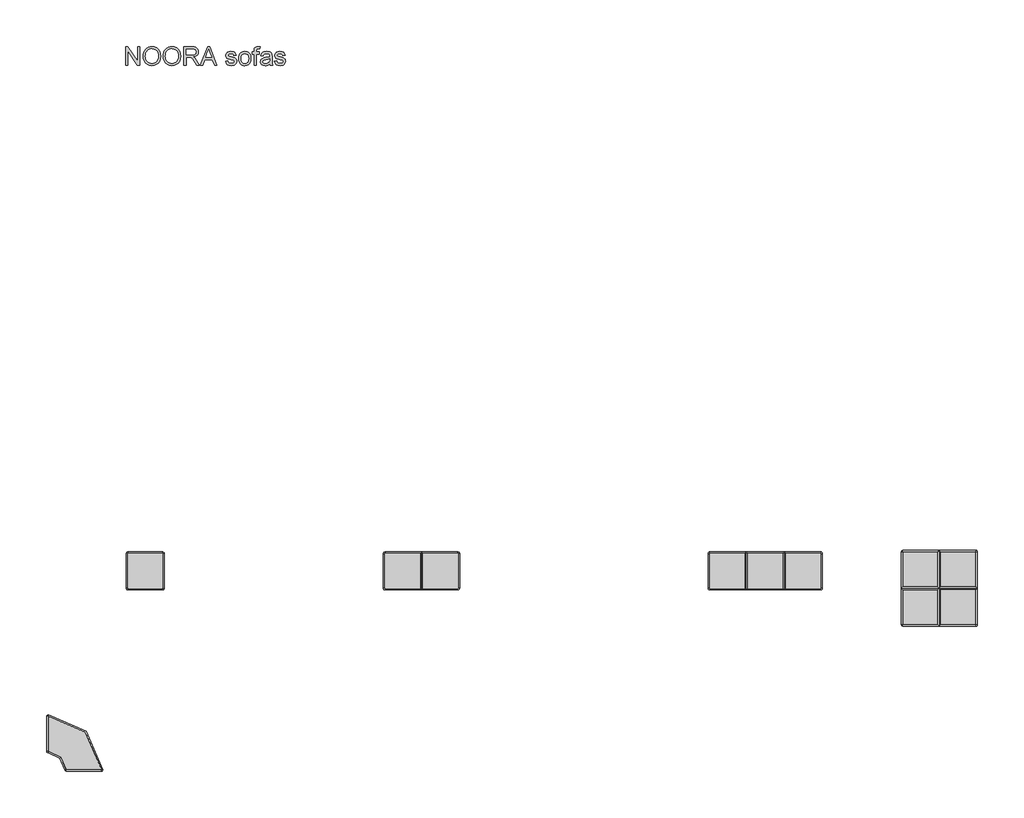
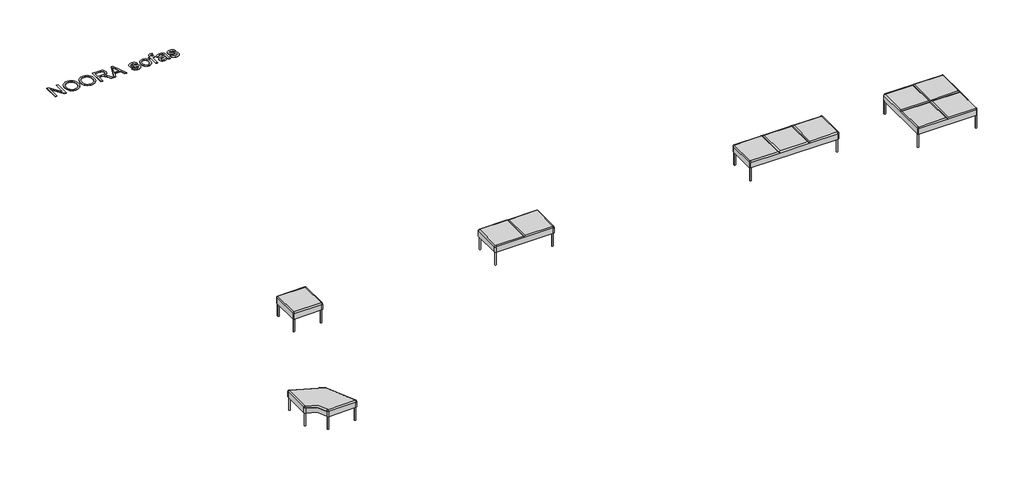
# One storey, incomplete: 5 furniture elements, 1 proxy.
"""IFC4 building model written with IfcOpenShell, lengths in millimetres."""

from ifc_helpers import new_model, si_unit, origin, origin_with_axes, place, context, project, spatial, polyline, outline, extrude, transform, mapped, element, save
from components import bench_bedf77db, bench_20c81473, bench_e48bfbdb, bench_625b1216, bench_5e1756b0

model = new_model("IFC4")

# Units and contexts
model_context = context("Model", 3, world=origin())
ifc_project = project(units=[si_unit("LENGTHUNIT", "METRE", prefix="MILLI")], contexts=[model_context])

# Site, building, storey
site = spatial("IfcSite", under=ifc_project)
building = spatial("IfcBuilding", under=site)
storey = spatial("IfcBuildingStorey", under=building, Name="Noora", Elevation=0.0)

# Proxy
placement = place(None, origin())
element("IfcBuildingElementProxy", 1, Name="600mm Arial", ObjectType="600mm Arial", at=placement, inside=storey, context=model_context, shape_type="SweptSolid", body=[
    extrude(outline(polyline([(-23332.8913106, 22931.5364008), (-23332.8913106, 23232.9053312), (-23292.5714439, 23232.9053312), (-23135.11795, 22994.1499163), (-23135.11795, 23232.9053312), (-23097.4468337, 23232.9053312), (-23097.4468337, 22931.5364008), (-23137.7667003, 22931.5364008), (-23295.2201943, 23170.365392), (-23295.2201943, 22931.5364008), (-23332.8913106, 22931.5364008)])), origin_with_axes(), (0.0, 0.0, 1.0), 5.0),
    extrude(outline(polyline([(-23045.6490487, 23078.2477404), (-23043.1382541, 23113.5966016), (-23035.6058703, 23144.8895639), (-23023.0518972, 23172.1266271), (-23005.4763349, 23195.3077913), (-22983.9322455, 23213.8168542), (-22959.4726914, 23227.0376134), (-22932.0976724, 23234.9700689), (-22901.8071886, 23237.6142207), (-22862.2782682, 23232.6478138), (-22826.832838, 23217.748593), (-22797.4022784, 23193.965022), (-22775.9179699, 23162.3455645), (-22762.7845826, 23124.4169308), (-22758.4067869, 23081.7058312), (-22763.0145089, 23038.4245145), (-22776.8376749, 22999.9624519), (-22799.1129297, 22968.2878121), (-22829.0769182, 22945.3687638), (-22864.2188458, 22931.4628244), (-22902.0279178, 22926.8275112), (-22942.1638435, 22931.950268), (-22977.8116088, 22947.3185383), (-23007.168592, 22971.5435677), (-23028.4321714, 23003.2366016), (-23041.3448294, 23039.7029044), (-23045.6490487, 23078.2477404)]), holes=[polyline([(-23007.9779324, 23077.8798584), (-23006.0948365, 23052.9052695), (-23000.4455486, 23030.7357808), (-22991.0300688, 23011.3713922), (-22977.848397, 22994.8121039), (-22961.8248369, 22981.549958), (-22943.8836918, 22972.0769966), (-22924.0249619, 22966.3932198), (-22902.248647, 22964.4986275), (-22880.0998516, 22966.4116139), (-22860.0065969, 22972.150573), (-22841.9688828, 22981.7155049), (-22825.9867094, 22995.1064095), (-22812.9016067, 23012.0151857), (-22803.5551048, 23032.1337323), (-22797.9472036, 23055.4620494), (-22796.0779032, 23082.0001368), (-22799.2784766, 23115.3486396), (-22808.8801966, 23144.172194), (-22824.6347431, 23167.7442328), (-22846.2937956, 23185.3381892), (-22872.4226143, 23196.2918756), (-22901.5864594, 23199.9431044), (-22922.6063169, 23198.1841686), (-22942.1086612, 23192.9073613), (-22960.0934922, 23184.1126823), (-22976.56081, 23171.8001318), (-22990.3058011, 23155.3765), (-23000.1236518, 23134.2485771), (-23006.0143623, 23108.4163633), (-23007.9779324, 23077.8798584)])]), origin_with_axes(), (0.0, 0.0, 1.0), 5.0),
    extrude(outline(polyline([(-22720.7356706, 23078.2477404), (-22718.224876, 23113.5966016), (-22710.6924921, 23144.8895639), (-22698.138519, 23172.1266271), (-22680.5629567, 23195.3077913), (-22659.0188674, 23213.8168542), (-22634.5593132, 23227.0376134), (-22607.1842943, 23234.9700689), (-22576.8938105, 23237.6142207), (-22537.3648901, 23232.6478138), (-22501.9194599, 23217.748593), (-22472.4889003, 23193.965022), (-22451.0045917, 23162.3455645), (-22437.8712045, 23124.4169308), (-22433.4934088, 23081.7058312), (-22438.1011308, 23038.4245145), (-22451.9242967, 22999.9624519), (-22474.1995515, 22968.2878121), (-22504.16354, 22945.3687638), (-22539.3054676, 22931.4628244), (-22577.1145397, 22926.8275112), (-22617.2504654, 22931.950268), (-22652.8982307, 22947.3185383), (-22682.2552139, 22971.5435677), (-22703.5187932, 23003.2366016), (-22716.4314513, 23039.7029044), (-22720.7356706, 23078.2477404)]), holes=[polyline([(-22683.0645543, 23077.8798584), (-22681.1814583, 23052.9052695), (-22675.5321704, 23030.7357808), (-22666.1166906, 23011.3713922), (-22652.9350189, 22994.8121039), (-22636.9114587, 22981.549958), (-22618.9703137, 22972.0769966), (-22599.1115837, 22966.3932198), (-22577.3352689, 22964.4986275), (-22555.1864735, 22966.4116139), (-22535.0932188, 22972.150573), (-22517.0555047, 22981.7155049), (-22501.0733313, 22995.1064095), (-22487.9882286, 23012.0151857), (-22478.6417266, 23032.1337323), (-22473.0338255, 23055.4620494), (-22471.1645251, 23082.0001368), (-22474.3650984, 23115.3486396), (-22483.9668185, 23144.172194), (-22499.7213649, 23167.7442328), (-22521.3804174, 23185.3381892), (-22547.5092361, 23196.2918756), (-22576.6730813, 23199.9431044), (-22597.6929388, 23198.1841686), (-22617.1952831, 23192.9073613), (-22635.1801141, 23184.1126823), (-22651.6474319, 23171.8001318), (-22665.392423, 23155.3765), (-22675.2102737, 23134.2485771), (-22681.1009841, 23108.4163633), (-22683.0645543, 23077.8798584)])]), origin_with_axes(), (0.0, 0.0, 1.0), 5.0),
    extrude(outline(polyline([(-22381.6956238, 22931.5364008), (-22381.6956238, 23232.9053312), (-22251.8332795, 23232.9053312), (-22216.9304753, 23230.8727832), (-22191.5374205, 23224.7751391), (-22172.9777739, 23213.5179501), (-22158.5751938, 23196.0067671), (-22149.3321586, 23174.2925323), (-22146.2511469, 23150.4261879), (-22151.3555096, 23120.7381109), (-22166.6685977, 23096.1268054), (-22178.2683768, 23086.0974225), (-22192.6502636, 23078.0821935), (-22229.7603598, 23068.0941974), (-22208.3496277, 23051.980966), (-22177.8154221, 23013.2062037), (-22127.5627416, 22931.5364008), (-22171.340699, 22931.5364008), (-22210.5569197, 22994.0027635), (-22238.8838333, 23035.3526998), (-22258.7862493, 23054.8872337), (-22276.7021024, 23062.0609326), (-22298.5542929, 23063.3853078), (-22344.0245075, 23063.3853078), (-22344.0245075, 22931.5364008), (-22381.6956238, 22931.5364008)]), holes=[polyline([(-22344.0245075, 23101.0564241), (-22259.7059542, 23101.0564241), (-22235.4901219, 23102.3899964), (-22216.700549, 23106.3907131), (-22202.5554863, 23113.3252887), (-22192.2731845, 23123.4604376), (-22186.0099936, 23135.7201051), (-22183.9222632, 23149.0282363), (-22187.9045858, 23167.403942), (-22199.8515536, 23182.2111923), (-22220.4069601, 23191.9784592), (-22250.2145988, 23195.2342149), (-22344.0245075, 23195.2342149), (-22344.0245075, 23101.0564241)])]), origin_with_axes(), (0.0, 0.0, 1.0), 5.0),
    extrude(outline(polyline([(-22115.4226357, 22931.5364008), (-21995.1252233, 23232.9053312), (-21963.0459133, 23232.9053312), (-21842.7485009, 22931.5364008), (-21882.5533328, 22931.5364008), (-21917.0606639, 23025.7141915), (-22041.1840491, 23025.7141915), (-22075.6178039, 22931.5364008), (-22115.4226357, 22931.5364008)]), holes=[polyline([(-22027.3516861, 23063.3853078), (-21930.8194506, 23063.3853078), (-21957.9691418, 23137.4767417), (-21979.0855683, 23195.2342149), (-21997.8475501, 23143.9514648), (-22027.3516861, 23063.3853078)])]), origin_with_axes(), (0.0, 0.0, 1.0), 5.0),
    extrude(outline(polyline([(-21703.6155303, 22997.4608543), (-21665.944414, 23002.1697438), (-21660.0031198, 22986.0565124), (-21648.5068075, 22974.2107122), (-21631.3819006, 22966.9266487), (-21608.5548228, 22964.4986275), (-21586.0036565, 22966.7243136), (-21570.1479425, 22973.4013718), (-21560.7669516, 22983.0766683), (-21557.6399546, 22994.2970691), (-21560.7853457, 23003.8987892), (-21570.2215189, 23011.2196409), (-21608.9962812, 23021.9617952), (-21665.7236848, 23040.3926831), (-21680.0802797, 23049.6541124), (-21690.4821431, 23061.9137798), (-21696.8005164, 23076.3899364), (-21698.9066408, 23092.3008326), (-21697.2143836, 23106.8965508), (-21692.1376121, 23120.3702289), (-21684.1361787, 23132.188438), (-21673.6699359, 23141.8177492), (-21649.720818, 23152.9645737), (-21617.3104143, 23157.5630986), (-21592.7910793, 23155.7144916), (-21571.4723177, 23150.1686705), (-21554.3290167, 23141.4682613), (-21542.3360636, 23130.1558899), (-21534.3898126, 23115.3946249), (-21529.3866174, 23096.3475346), (-21567.0577337, 23091.6386451), (-21571.8126085, 23103.4936423), (-21581.2211905, 23112.4239778), (-21595.3754503, 23118.0249812), (-21614.3673583, 23119.8919823), (-21635.9988196, 23118.1077546), (-21650.4197938, 23112.7550716), (-21658.5315918, 23105.0295497), (-21661.2355245, 23096.1268054), (-21656.7473641, 23085.1639219), (-21642.6942719, 23076.8497888), (-21610.24708, 23068.8299614), (-21554.9544161, 23051.0980492), (-21540.3495009, 23042.6183692), (-21529.2762528, 23031.0116922), (-21522.295692, 23016.2412301), (-21519.9688383, 22998.2701947), (-21522.7003622, 22979.6921539), (-21530.8949336, 22962.2177592), (-21544.239853, 22947.2173708), (-21562.4224206, 22936.0613493), (-21584.3849757, 22929.1359707), (-21609.0698576, 22926.8275112), (-21647.0536736, 22931.2788834), (-21674.7735819, 22944.6329998), (-21693.2780463, 22966.7427077), (-21703.6155303, 22997.4608543)])), origin_with_axes(), (0.0, 0.0, 1.0), 5.0),
    extrude(outline(polyline([(-21487.0066116, 23042.1953049), (-21484.969465, 23070.8579109), (-21478.8580254, 23095.5565883), (-21468.6722926, 23116.2913373), (-21454.4122668, 23133.0621577), (-21440.0556719, 23143.7813193), (-21424.209155, 23151.4378634), (-21406.872716, 23156.0317898), (-21388.0463549, 23157.5630986), (-21367.2633214, 23155.6983967), (-21348.4714492, 23150.1042911), (-21331.6707384, 23140.7807818), (-21316.8611888, 23127.7278688), (-21304.773966, 23111.3870104), (-21296.1402354, 23092.1996651), (-21290.9599971, 23070.1658328), (-21289.233251, 23045.2855137), (-21292.2866715, 23007.2281213), (-21301.4469332, 22978.2574141), (-21316.4473216, 22956.5615735), (-21337.0211221, 22940.3287804), (-21361.4576837, 22930.2028285), (-21388.0463549, 22926.8275112), (-21409.132891, 22928.6853153), (-21428.0995071, 22934.2587275), (-21444.9462032, 22943.5477479), (-21459.6729793, 22956.5523764), (-21471.6314434, 22973.0518839), (-21480.1732035, 22992.8255411), (-21485.2982596, 23015.8733481), (-21487.0066116, 23042.1953049)]), holes=[polyline([(-21449.3354953, 23042.2688813), (-21444.9760936, 23008.1754174), (-21431.8978887, 22983.8860087), (-21412.216202, 22969.3454728), (-21388.0463549, 22964.4986275), (-21363.9868724, 22969.373064), (-21344.3419738, 22983.9963733), (-21331.2637689, 23008.6076787), (-21326.9043673, 23043.4461037), (-21331.2913601, 23076.5462862), (-21344.4523384, 23100.5046011), (-21364.1248281, 23115.045137), (-21388.0463549, 23119.8919823), (-21412.216202, 23115.0635311), (-21431.8978887, 23100.5781775), (-21444.9760936, 23076.3439511), (-21449.3354953, 23042.2688813)])]), origin_with_axes(), (0.0, 0.0, 1.0), 5.0),
    extrude(outline(polyline([(-21237.435466, 22931.5364008), (-21237.435466, 23115.1830927), (-21270.3976928, 23115.1830927), (-21270.3976928, 23152.8542091), (-21237.435466, 23152.8542091), (-21237.435466, 23175.147858), (-21233.4623405, 23206.5649803), (-21225.8839714, 23219.0913623), (-21214.185324, 23229.0057821), (-21197.8145752, 23235.4621111), (-21176.219902, 23237.6142207), (-21141.8597237, 23233.4939424), (-21147.3779536, 23198.1772709), (-21169.0829913, 23199.9431044), (-21183.402798, 23198.379606), (-21192.81138, 23193.6891105), (-21198.0261073, 23184.7311839), (-21199.7643497, 23170.365392), (-21199.7643497, 23152.8542091), (-21157.3843439, 23152.8542091), (-21157.3843439, 23115.1830927), (-21199.7643497, 23115.1830927), (-21199.7643497, 22931.5364008), (-21237.435466, 22931.5364008)])), origin_with_axes(), (0.0, 0.0, 1.0), 5.0),
    extrude(outline(polyline([(-20983.155431, 22959.789738), (-21001.1540576, 22944.3570883), (-21019.6861131, 22934.2587275), (-21039.1746618, 22928.6853153), (-21060.042768, 22926.8275112), (-21091.5242697, 22931.2972775), (-21114.7468207, 22944.7065762), (-21129.0666273, 22965.0688446), (-21133.8398962, 22990.39752), (-21132.0372744, 23006.0141107), (-21126.6294091, 23020.1959616), (-21118.2876849, 23032.3360674), (-21107.6834863, 23041.8274229), (-21081.3063473, 23054.1882579), (-21048.7120025, 23059.8536407), (-21010.1947576, 23065.813329), (-20983.3761602, 23072.8030869), (-20983.155431, 23081.1907964), (-20985.748999, 23098.0030036), (-20993.5297032, 23109.0026752), (-21010.9305216, 23117.1696555), (-21035.1739451, 23119.8919823), (-21057.6147468, 23118.0801635), (-21073.2865198, 23112.644707), (-21083.9734918, 23102.5923315), (-21091.4598904, 23086.9297555), (-21129.1310067, 23091.6386451), (-21122.5919042, 23112.2400368), (-21112.8338343, 23128.4268446), (-21098.946289, 23140.8060737), (-21080.0187603, 23149.9847295), (-21056.8697858, 23155.6685063), (-21030.3179028, 23157.5630986), (-21004.8512716, 23155.8892355), (-20984.6637472, 23150.8676463), (-20969.4426296, 23143.3168683), (-20958.8752193, 23134.0554391), (-20951.8670673, 23122.605112), (-20947.3237247, 23108.4876404), (-20945.4843147, 23075.5254137), (-20945.4843147, 23028.6572475), (-20943.5713283, 22963.2110405), (-20936.0665356, 22931.5364008), (-20973.7376519, 22931.5364008), (-20983.155431, 22959.789738)]), holes=[polyline([(-20983.155431, 23035.1319706), (-21043.9295366, 23023.5804759), (-21076.3399404, 23017.4736348), (-21091.018432, 23007.540821), (-21096.1687799, 22993.0462703), (-21093.3636797, 22981.8442636), (-21084.948379, 22972.6656078), (-21071.106819, 22966.5403726), (-21052.0229405, 22964.4986275), (-21031.7894307, 22966.7519047), (-21013.9103658, 22973.5117364), (-20999.4158152, 22983.4721414), (-20989.3358485, 22995.3271387), (-20984.8660823, 23007.540821), (-20983.3761602, 23024.4633927), (-20983.155431, 23035.1319706)])]), origin_with_axes(), (0.0, 0.0, 1.0), 5.0),
    extrude(outline(polyline([(-20907.8131984, 22997.4608543), (-20870.1420821, 23002.1697438), (-20864.2007878, 22986.0565124), (-20852.7044755, 22974.2107122), (-20835.5795686, 22966.9266487), (-20812.7524908, 22964.4986275), (-20790.2013245, 22966.7243136), (-20774.3456105, 22973.4013718), (-20764.9646196, 22983.0766683), (-20761.8376227, 22994.2970691), (-20764.9830137, 23003.8987892), (-20774.4191869, 23011.2196409), (-20813.1939492, 23021.9617952), (-20869.9213529, 23040.3926831), (-20884.2779477, 23049.6541124), (-20894.6798111, 23061.9137798), (-20900.9981844, 23076.3899364), (-20903.1043088, 23092.3008326), (-20901.4120517, 23106.8965508), (-20896.3352801, 23120.3702289), (-20888.3338467, 23132.188438), (-20877.867604, 23141.8177492), (-20853.9184861, 23152.9645737), (-20821.5080823, 23157.5630986), (-20796.9887473, 23155.7144916), (-20775.6699857, 23150.1686705), (-20758.5266847, 23141.4682613), (-20746.5337317, 23130.1558899), (-20738.5874806, 23115.3946249), (-20733.5842855, 23096.3475346), (-20771.2554018, 23091.6386451), (-20776.0102765, 23103.4936423), (-20785.4188586, 23112.4239778), (-20799.5731183, 23118.0249812), (-20818.5650263, 23119.8919823), (-20840.1964877, 23118.1077546), (-20854.6174619, 23112.7550716), (-20862.7292599, 23105.0295497), (-20865.4331925, 23096.1268054), (-20860.9450322, 23085.1639219), (-20846.89194, 23076.8497888), (-20814.444748, 23068.8299614), (-20759.1520841, 23051.0980492), (-20744.5471689, 23042.6183692), (-20733.4739209, 23031.0116922), (-20726.49336, 23016.2412301), (-20724.1665064, 22998.2701947), (-20726.8980302, 22979.6921539), (-20735.0926016, 22962.2177592), (-20748.437521, 22947.2173708), (-20766.6200886, 22936.0613493), (-20788.5826437, 22929.1359707), (-20813.2675256, 22926.8275112), (-20851.2513416, 22931.2788834), (-20878.9712499, 22944.6329998), (-20897.4757143, 22966.7427077), (-20907.8131984, 22997.4608543)])), origin_with_axes(), (0.0, 0.0, 1.0), 5.0),
])

# Furniture
bench_shape = bench_bedf77db(model_context)
element("IfcFurniture", 2, ObjectType="Noora - Bench 2x2 : Bench", at=placement, inside=storey, context=model_context, shape_type="MappedRepresentation", body=[
    mapped(bench_shape, transform((-10694.4400861, 13791.7147948, 0.0), x_axis=(1.0, 0.0, 0.0), y_axis=(0.0, 1.0, 0.0), z_axis=(0.0, 0.0, 1.0))),
])
bench_2_shape = bench_20c81473(model_context)
element("IfcFurniture", 3, ObjectType="Noora : Bench", at=placement, inside=storey, context=model_context, shape_type="MappedRepresentation", body=[
    mapped(bench_2_shape, transform((-13841.2471506, 14384.6333825, 0.0), x_axis=(1.0, 0.0, 0.0), y_axis=(0.0, 1.0, 0.0), z_axis=(0.0, 0.0, 1.0))),
])
bench_3_shape = bench_e48bfbdb(model_context)
element("IfcFurniture", 4, ObjectType="Noora : Bench", at=placement, inside=storey, context=model_context, shape_type="MappedRepresentation", body=[
    mapped(bench_3_shape, transform((-19131.2471506, 14384.6333825, 0.0), x_axis=(1.0, 0.0, 0.0), y_axis=(0.0, 1.0, 0.0), z_axis=(0.0, 0.0, 1.0))),
])
bench_4_shape = bench_625b1216(model_context)
element("IfcFurniture", 5, ObjectType="Noora : Bench", at=placement, inside=storey, context=model_context, shape_type="MappedRepresentation", body=[
    mapped(bench_4_shape, transform((-23321.2471506, 14384.6333825, 0.0), x_axis=(1.0, 0.0, 0.0), y_axis=(0.0, 1.0, 0.0), z_axis=(0.0, 0.0, 1.0))),
])
bench_5_shape = bench_5e1756b0(model_context)
element("IfcFurniture", 6, ObjectType="Noora Round 1 : Bench", at=placement, inside=storey, context=model_context, shape_type="MappedRepresentation", body=[
    mapped(bench_5_shape, transform((-24619.101181, 11430.8236068, 0.0), x_axis=(1.0, 0.0, 0.0), y_axis=(0.0, 1.0, 0.0), z_axis=(0.0, 0.0, 1.0))),
])

save(model, "model.ifc")
